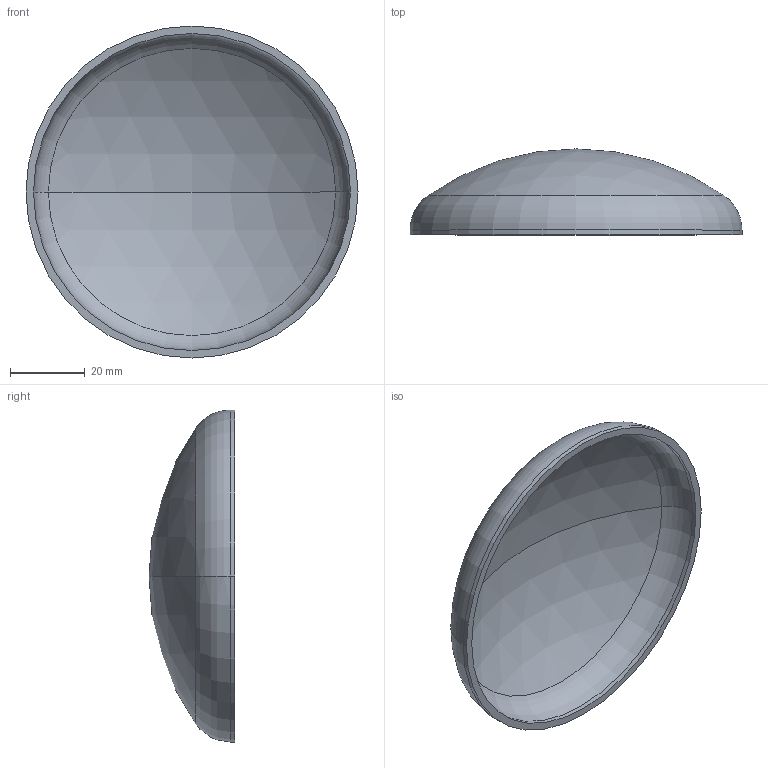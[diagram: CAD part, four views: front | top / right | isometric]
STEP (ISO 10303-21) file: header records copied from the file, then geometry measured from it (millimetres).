
FILE_DESCRIPTION (( 'STEP AP203' ), '1' );
FILE_NAME ('3D_R365_88.9x2_173371810.STEP', '2024-07-16T06:53:40', ( '' ), ( '' ), 'SwSTEP 2.0', 'SolidWorks 2024', '' );
FILE_SCHEMA (( 'CONFIG_CONTROL_DESIGN' ));
Length unit declared in the file: millimetre
Products named in the file (1): 3D_R365_88.9x2_173371810
Bounding box: 88.9 x 23 x 88.9 mm (x, y, z)
Volume: 16434.7 mm3; surface area: 16989 mm2
Topology: 1 solids, 1 shells, 13 faces, 24 edges, 14 vertices
Faces by surface type: sphere 4, torus 4, cylinder 4, plane 1
Entity records: 407 total; most frequent: DIRECTION 72, CARTESIAN_POINT 52, ORIENTED_EDGE 48, AXIS2_PLACEMENT_3D 34, EDGE_CURVE 24, CIRCLE 20, VERTEX_POINT 14, EDGE_LOOP 14
